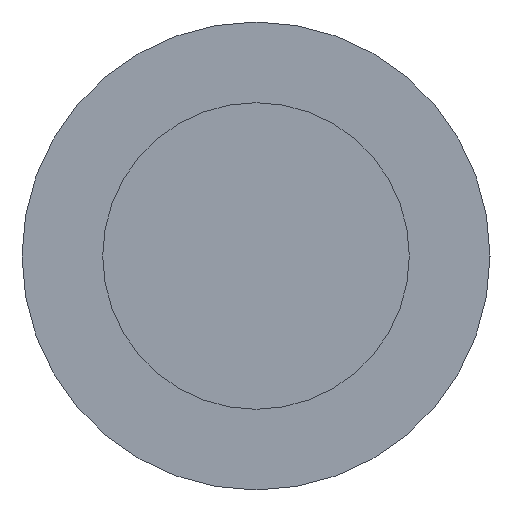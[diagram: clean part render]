
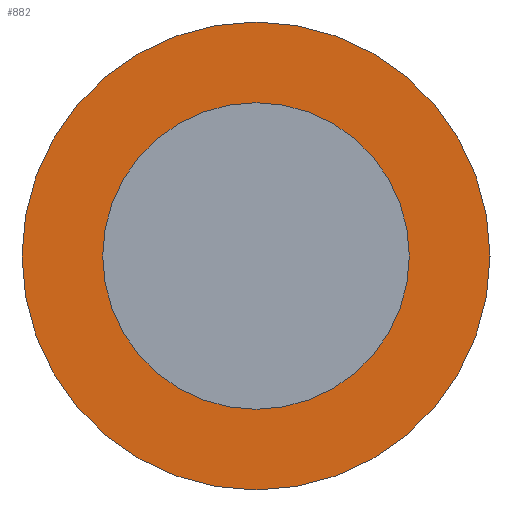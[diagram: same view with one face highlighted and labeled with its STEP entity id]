
A CAD part, left-side view. The second image highlights one B-rep face of the part: STEP entity #882.
In plain terms, the highlighted planar face has unit normal (-1, 0, 0).
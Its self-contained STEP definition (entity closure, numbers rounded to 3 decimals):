
#882 = ADVANCED_FACE( '', ( #2252, #2253 ), #2254, .F. );
#2252 = FACE_BOUND( '', #4241, .T. );
#2253 = FACE_OUTER_BOUND( '', #4242, .T. );
#2254 = PLANE( '', #4243 );
#4241 = EDGE_LOOP( '', ( #6586 ) );
#4242 = EDGE_LOOP( '', ( #6587 ) );
#4243 = AXIS2_PLACEMENT_3D( '', #6588, #6589, #6590 );
#6586 = ORIENTED_EDGE( '', *, *, #8957, .F. );
#6587 = ORIENTED_EDGE( '', *, *, #8824, .T. );
#6588 = CARTESIAN_POINT( '', ( -122.636, 0., 20. ) );
#6589 = DIRECTION( '', ( 1., 0., 0. ) );
#6590 = DIRECTION( '', ( 0., 0., -1. ) );
#8824 = EDGE_CURVE( '', #10037, #10037, #10038, .T. );
#8957 = EDGE_CURVE( '', #10249, #10249, #10250, .T. );
#10037 = VERTEX_POINT( '', #11523 );
#10038 = CIRCLE( '', #11524, 20. );
#10249 = VERTEX_POINT( '', #11735 );
#10250 = CIRCLE( '', #11736, 13.1 );
#11523 = CARTESIAN_POINT( '', ( -122.636, 0., 20. ) );
#11524 = AXIS2_PLACEMENT_3D( '', #13103, #13104, #13105 );
#11735 = CARTESIAN_POINT( '', ( -122.636, 0., 13.1 ) );
#11736 = AXIS2_PLACEMENT_3D( '', #13340, #13341, #13342 );
#13103 = CARTESIAN_POINT( '', ( -122.636, 0., 0. ) );
#13104 = DIRECTION( '', ( -1., 0., 0. ) );
#13105 = DIRECTION( '', ( 0., 0., 1. ) );
#13340 = CARTESIAN_POINT( '', ( -122.636, 0., 0. ) );
#13341 = DIRECTION( '', ( -1., 0., 0. ) );
#13342 = DIRECTION( '', ( 0., 0., 1. ) );
